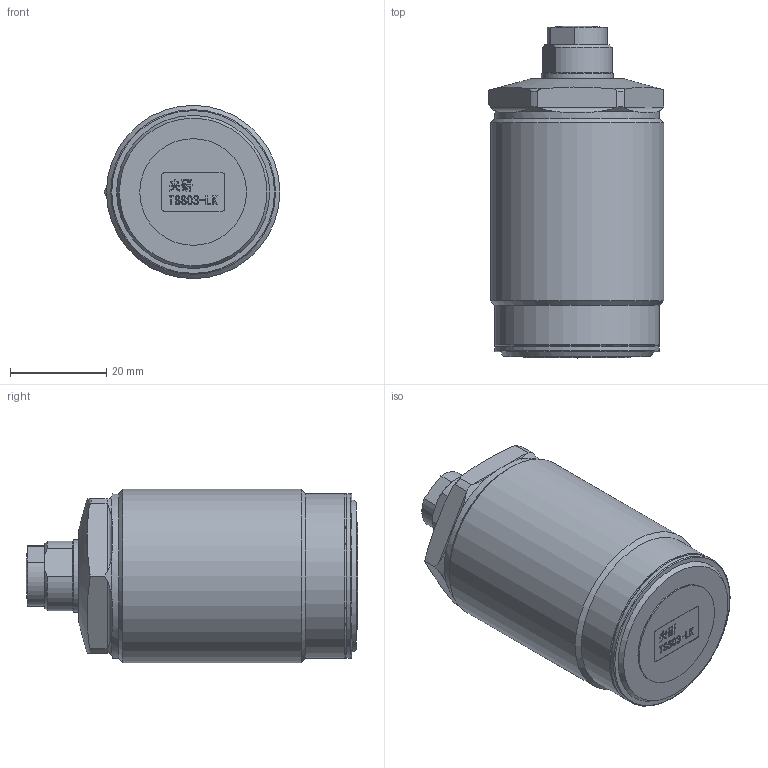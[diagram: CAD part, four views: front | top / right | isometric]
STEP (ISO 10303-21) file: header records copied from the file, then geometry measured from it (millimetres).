
FILE_DESCRIPTION(/* description */ (''),/* implementation_level */ '2;1');
FILE_NAME(/* name */ 'TSS03-LK.stp',/* time_stamp */ '2022-05-04T14:53:00+08:00',/* author */ (''),/* organization */ (''),/* preprocessor_version */ 'ST-DEVELOPER v16.7',/* originating_system */ 'SIEMENS PLM Software NX 12.0',/* authorisation */ '');
FILE_SCHEMA (('AUTOMOTIVE_DESIGN { 1 0 10303 214 3 1 1 1 }'));
Length unit declared in the file: millimetre
Products named in the file (1): TSS03-LK
Bounding box: 36.48 x 68.92 x 36 mm (x, y, z)
Volume: 57163.8 mm3; surface area: 12010.7 mm2
Topology: 3 solids, 3 shells, 262 faces, 680 edges, 447 vertices
Faces by surface type: plane 138, extrusion 64, cylinder 31, cone 16, torus 12, sphere 1
Full cylindrical faces by diameter (mm): 5 x1, 7.8 x1, 10 x2, 10.3 x1, 15 x2, 22.16 x1, 34.2 x3, 36 x1
Entity records: 10407 total; most frequent: CARTESIAN_POINT 3144, ORIENTED_EDGE 1296, DIRECTION 1007, EDGE_CURVE 648, VERTEX_POINT 444, VECTOR 443, LINE 379, EDGE_LOOP 314
